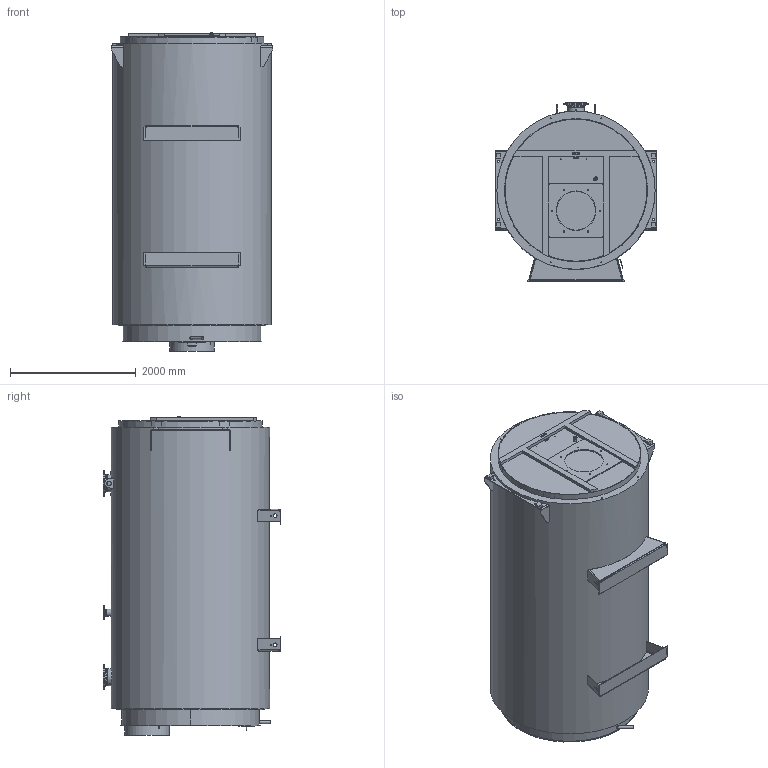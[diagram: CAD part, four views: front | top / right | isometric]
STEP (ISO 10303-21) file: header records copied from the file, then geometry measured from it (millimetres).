
FILE_DESCRIPTION(('TFLEX Exchange Step'),'2;1');
FILE_NAME('M22A00B_7952085_H001.stp', '2024-08-01T09:53:42+03:00',('kort'),('Unknown organisation'),'TFLEX Exchange 2024.2','T-FLEX CAD','Unknown authorisation');
FILE_SCHEMA( ('AUTOMOTIVE_DESIGN { 1 0 10303 214 1 1 1 1 }') );
Length unit declared in the file: millimetre
Products named in the file (1): Nodes
Bounding box: 2565 x 2830 x 5072.64 mm (x, y, z)
Volume: 24691483569.9 mm3; surface area: 310910782.6 mm2
Topology: 123 solids, 123 shells, 1451 faces, 3490 edges, 2342 vertices
Faces by surface type: plane 769, cylinder 478, bspline 105, cone 76, torus 19, sphere 4
Full cylindrical faces by diameter (mm): 1 x16, 2.2 x4, 3 x2, 3.2 x4, 3.3 x4, 4 x4, 6.5 x4, 10 x9, 11.45 x1, 12 x12, 13 x4, 13.84 x6, 14 x4, 14.63 x6, 16 x4, 18 x8, 22 x6, 24 x4, 26 x24, 32 x4, 35 x3, 40 x2, 41.1 x1, 41.45 x1, 44.8 x1, 45 x4, 47.8 x1, 48 x1, 48.3 x1, 60 x4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
Entity records: 89841 total; most frequent: CARTESIAN_POINT 55235, DIRECTION 7090, ORIENTED_EDGE 6928, EDGE_CURVE 3464, AXIS2_PLACEMENT_3D 2624, VERTEX_POINT 2342, VECTOR 1842, LINE 1842
